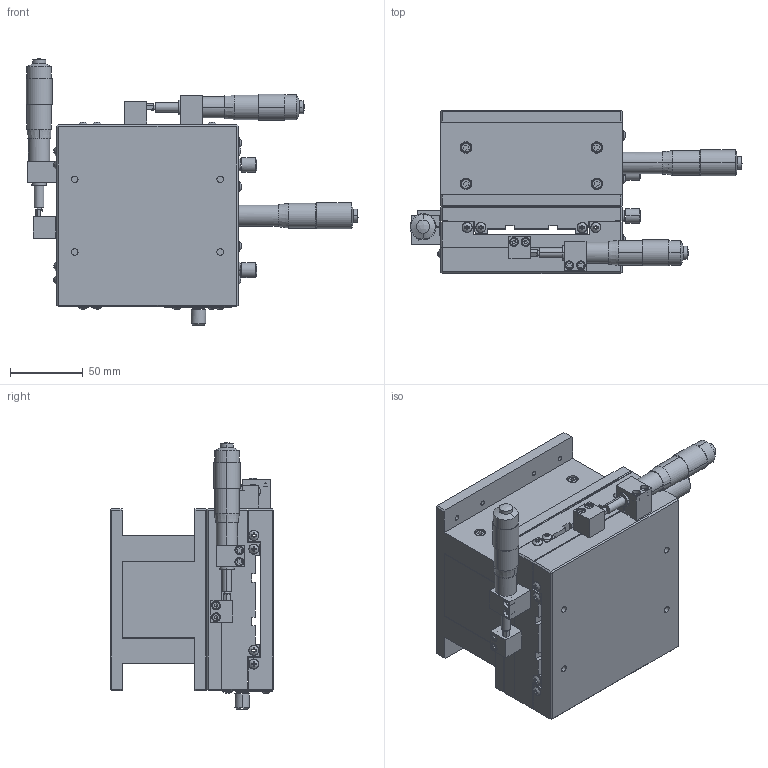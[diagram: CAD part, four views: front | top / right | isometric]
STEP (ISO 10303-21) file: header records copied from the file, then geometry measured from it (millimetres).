
FILE_DESCRIPTION (( 'STEP AP214' ), '1' );
FILE_NAME ('LD125.STEP', '2022-09-11T04:02:42', ( '' ), ( '' ), 'SwSTEP 2.0', 'SolidWorks 2017', '' );
FILE_SCHEMA (( 'AUTOMOTIVE_DESIGN' ));
Length unit declared in the file: millimetre
Products named in the file (1): LD125
Bounding box: 228.24 x 112 x 183.2 mm (x, y, z)
Surface area: 231999.7 mm2 (no closed solid volume)
Topology: 0 solids, 58 shells, 1103 faces, 3319 edges, 2242 vertices
Faces by surface type: plane 668, cylinder 227, bspline 115, cone 93
Entity records: 53438 total; most frequent: CARTESIAN_POINT 25731, ORIENTED_EDGE 5600, DIRECTION 5074, EDGE_CURVE 3290, VERTEX_POINT 2243, VECTOR 1768, LINE 1768, AXIS2_PLACEMENT_3D 1653
